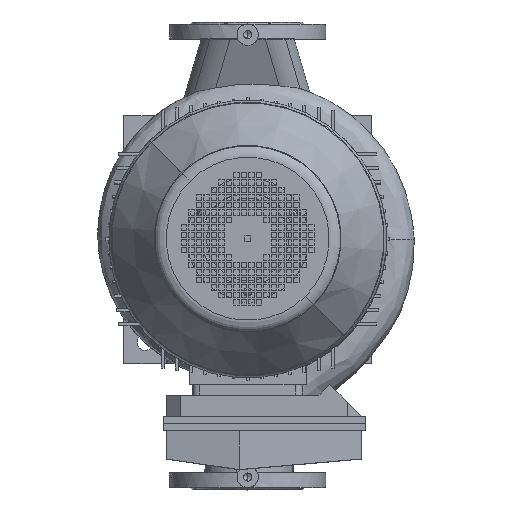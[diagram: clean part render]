
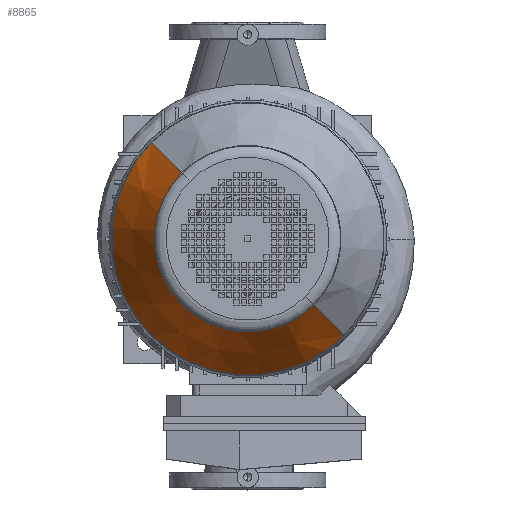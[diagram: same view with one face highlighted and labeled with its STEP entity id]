
A CAD part, top view. The second image highlights one B-rep face of the part: STEP entity #8865.
In plain terms, the highlighted conical face has half-angle 32.471 degrees and reference radius 126 mm.
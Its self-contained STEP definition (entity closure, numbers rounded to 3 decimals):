
#8865=ADVANCED_FACE('',(#21218),#21219,.T.);
#8889=EDGE_CURVE('',#21255,#21254,#21262,.T.);
#8893=EDGE_CURVE('',#21251,#21250,#21268,.T.);
#21218=FACE_OUTER_BOUND('',#38168,.T.);
#21219=CONICAL_SURFACE('',#38169,126.0,0.567);
#21250=VERTEX_POINT('',#38205);
#21251=VERTEX_POINT('',#38206);
#21254=VERTEX_POINT('',#38210);
#21255=VERTEX_POINT('',#38211);
#21262=CIRCLE('',#38220,131.894);
#21268=CIRCLE('',#38228,192.873);
#38168=EDGE_LOOP('',(#69451,#69452,#69453,#69454));
#38169=AXIS2_PLACEMENT_3D('',#69455,#69456,#69457);
#38205=CARTESIAN_POINT('',(192.873,0.,114.913));
#38206=CARTESIAN_POINT('',(-192.873,0.,114.913));
#38210=CARTESIAN_POINT('',(-131.894,0.,210.738));
#38211=CARTESIAN_POINT('',(131.894,0.,210.738));
#38220=AXIS2_PLACEMENT_3D('',#69511,#69512,#69513);
#38228=AXIS2_PLACEMENT_3D('',#69517,#69518,#69519);
#69451=ORIENTED_EDGE('',*,*,#78418,.T.);
#69452=ORIENTED_EDGE('',*,*,#8889,.F.);
#69453=ORIENTED_EDGE('',*,*,#78419,.T.);
#69454=ORIENTED_EDGE('',*,*,#8893,.F.);
#69455=CARTESIAN_POINT('',(0.0,0.0,220.0));
#69456=DIRECTION('',(-0.0,-0.0,-1.0));
#69457=DIRECTION('',(-1.0,0.,0.0));
#69511=CARTESIAN_POINT('',(0.0,0.0,210.738));
#69512=DIRECTION('',(0.0,0.0,1.0));
#69513=DIRECTION('',(1.0,0.,0.0));
#69517=CARTESIAN_POINT('',(0.0,0.0,114.913));
#69518=DIRECTION('',(0.0,0.0,-1.0));
#69519=DIRECTION('',(1.0,0.,0.0));
#78418=EDGE_CURVE('',#21251,#21254,#83706,.T.);
#78419=EDGE_CURVE('',#21255,#21250,#83707,.T.);
#83706=LINE('',#92194,#92195);
#83707=LINE('',#92196,#92197);
#92194=CARTESIAN_POINT('',(-126.0,0.,220.0));
#92195=VECTOR('',#99161,1.0);
#92196=CARTESIAN_POINT('',(126.0,0.,220.0));
#92197=VECTOR('',#99162,1.0);
#99161=DIRECTION('',(0.537,0.,0.844));
#99162=DIRECTION('',(0.537,0.,-0.844));
